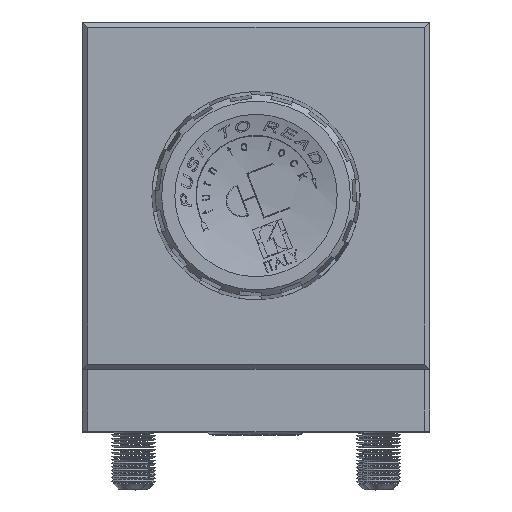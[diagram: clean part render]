
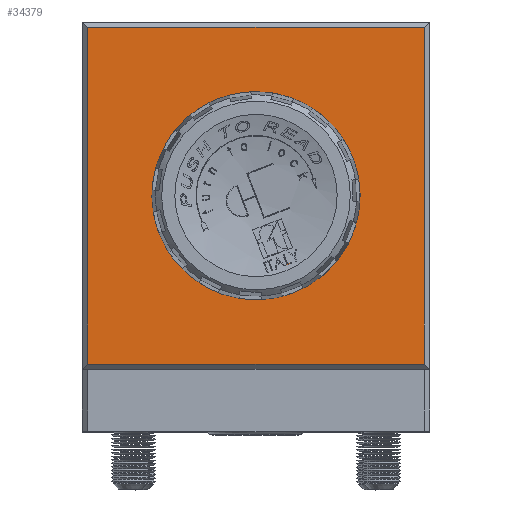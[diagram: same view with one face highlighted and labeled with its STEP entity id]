
A CAD part, top view. The second image highlights one B-rep face of the part: STEP entity #34379.
In plain terms, the highlighted planar face has unit normal (0, 0, 1).
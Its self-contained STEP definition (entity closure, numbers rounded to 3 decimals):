
#279 = VECTOR ( 'NONE', #7069, 1000. ) ;
#1263 = DIRECTION ( 'NONE',  ( -1., 0., 0. ) ) ;
#2378 = CARTESIAN_POINT ( 'NONE',  ( 21.8, -21.8, 39. ) ) ;
#3382 = CIRCLE ( 'NONE', #29400, 8.9 ) ;
#3451 = VECTOR ( 'NONE', #29348, 1000. ) ;
#3469 = FACE_OUTER_BOUND ( 'NONE', #25175, .T. ) ;
#3999 = DIRECTION ( 'NONE',  ( 0., 0., -1. ) ) ;
#4584 = CARTESIAN_POINT ( 'NONE',  ( 8.9, 0., 39. ) ) ;
#4594 = AXIS2_PLACEMENT_3D ( 'NONE', #11773, #3999, #1263 ) ;
#4644 = VERTEX_POINT ( 'NONE', #29026 ) ;
#4898 = CARTESIAN_POINT ( 'NONE',  ( -22.5, 21.8, 39. ) ) ;
#6839 = EDGE_CURVE ( 'NONE', #4644, #7348, #24252, .T. ) ;
#7069 = DIRECTION ( 'NONE',  ( 0., -1., 0. ) ) ;
#7348 = VERTEX_POINT ( 'NONE', #2378 ) ;
#7797 = ORIENTED_EDGE ( 'NONE', *, *, #6839, .T. ) ;
#9597 = FACE_BOUND ( 'NONE', #13767, .T. ) ;
#9788 = LINE ( 'NONE', #29191, #279 ) ;
#11631 = ORIENTED_EDGE ( 'NONE', *, *, #20620, .T. ) ;
#11773 = CARTESIAN_POINT ( 'NONE',  ( 0., 0., 39. ) ) ;
#13552 = CARTESIAN_POINT ( 'NONE',  ( 22.5, -21.8, 39. ) ) ;
#13767 = EDGE_LOOP ( 'NONE', ( #35250 ) ) ;
#15740 = VECTOR ( 'NONE', #17055, 1000. ) ;
#17055 = DIRECTION ( 'NONE',  ( 0., 1., 0. ) ) ;
#17463 = EDGE_CURVE ( 'NONE', #31696, #4644, #9788, .T. ) ;
#19069 = LINE ( 'NONE', #25228, #15740 ) ;
#19158 = CARTESIAN_POINT ( 'NONE',  ( 0., 0., 39. ) ) ;
#19200 = EDGE_CURVE ( 'NONE', #29396, #29396, #3382, .T. ) ;
#20620 = EDGE_CURVE ( 'NONE', #28354, #31696, #32081, .T. ) ;
#24252 = LINE ( 'NONE', #13552, #35889 ) ;
#24255 = DIRECTION ( 'NONE',  ( 1., 0., 0. ) ) ;
#24549 = CARTESIAN_POINT ( 'NONE',  ( -21.8, 21.8, 39. ) ) ;
#24621 = DIRECTION ( 'NONE',  ( 1., 0., 0. ) ) ;
#25175 = EDGE_LOOP ( 'NONE', ( #30382, #11631, #26698, #7797 ) ) ;
#25228 = CARTESIAN_POINT ( 'NONE',  ( 21.8, 22.5, 39. ) ) ;
#26698 = ORIENTED_EDGE ( 'NONE', *, *, #17463, .T. ) ;
#28354 = VERTEX_POINT ( 'NONE', #34541 ) ;
#28448 = PLANE ( 'NONE',  #4594 ) ;
#29026 = CARTESIAN_POINT ( 'NONE',  ( -21.8, -21.8, 39. ) ) ;
#29191 = CARTESIAN_POINT ( 'NONE',  ( -21.8, -22.5, 39. ) ) ;
#29348 = DIRECTION ( 'NONE',  ( -1., 0., 0. ) ) ;
#29396 = VERTEX_POINT ( 'NONE', #4584 ) ;
#29400 = AXIS2_PLACEMENT_3D ( 'NONE', #19158, #35561, #24255 ) ;
#29410 = EDGE_CURVE ( 'NONE', #7348, #28354, #19069, .T. ) ;
#30382 = ORIENTED_EDGE ( 'NONE', *, *, #29410, .T. ) ;
#31696 = VERTEX_POINT ( 'NONE', #24549 ) ;
#32081 = LINE ( 'NONE', #4898, #3451 ) ;
#34379 = ADVANCED_FACE ( 'NONE', ( #9597, #3469 ), #28448, .F. ) ;
#34541 = CARTESIAN_POINT ( 'NONE',  ( 21.8, 21.8, 39. ) ) ;
#35250 = ORIENTED_EDGE ( 'NONE', *, *, #19200, .F. ) ;
#35561 = DIRECTION ( 'NONE',  ( 0., 0., 1. ) ) ;
#35889 = VECTOR ( 'NONE', #24621, 1000. ) ;
